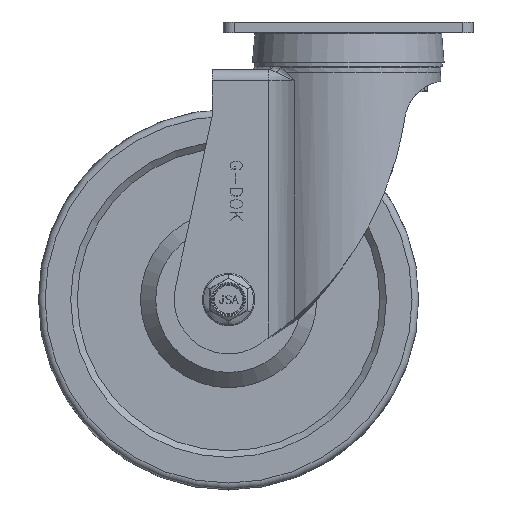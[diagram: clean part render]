
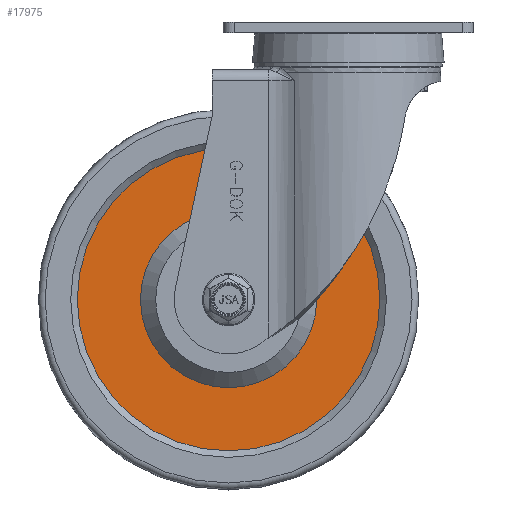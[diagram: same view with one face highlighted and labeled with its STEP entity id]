
A CAD part, front view. The second image highlights one B-rep face of the part: STEP entity #17975.
In plain terms, the highlighted planar face has unit normal (0, -1, 0).
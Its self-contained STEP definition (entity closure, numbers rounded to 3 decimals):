
#4718=FACE_BOUND('',#5812,.T.);
#4803=FACE_OUTER_BOUND('',#5811,.T.);
#5811=EDGE_LOOP('',(#11814,#11815));
#5812=EDGE_LOOP('',(#11816,#11817));
#6902=CIRCLE('',#19020,69.5);
#6903=CIRCLE('',#19021,69.5);
#6904=CIRCLE('',#19023,40.5);
#6905=CIRCLE('',#19024,40.5);
#7197=VERTEX_POINT('',#24487);
#7198=VERTEX_POINT('',#24488);
#7199=VERTEX_POINT('',#24493);
#7200=VERTEX_POINT('',#24494);
#9026=EDGE_CURVE('',#7197,#7198,#6902,.T.);
#9028=EDGE_CURVE('',#7198,#7197,#6903,.T.);
#9029=EDGE_CURVE('',#7199,#7200,#6904,.T.);
#9030=EDGE_CURVE('',#7200,#7199,#6905,.T.);
#11814=ORIENTED_EDGE('',*,*,#9026,.F.);
#11815=ORIENTED_EDGE('',*,*,#9028,.F.);
#11816=ORIENTED_EDGE('',*,*,#9029,.T.);
#11817=ORIENTED_EDGE('',*,*,#9030,.T.);
#17289=PLANE('',#19022);
#17975=ADVANCED_FACE('',(#4803,#4718),#17289,.T.);
#19020=AXIS2_PLACEMENT_3D('',#24489,#20223,#20224);
#19021=AXIS2_PLACEMENT_3D('',#24491,#20226,#20227);
#19022=AXIS2_PLACEMENT_3D('',#24492,#20228,#20229);
#19023=AXIS2_PLACEMENT_3D('',#24495,#20230,#20231);
#19024=AXIS2_PLACEMENT_3D('',#24496,#20232,#20233);
#20223=DIRECTION('center_axis',(0.,1.,0.));
#20224=DIRECTION('ref_axis',(0.,0.,
1.));
#20226=DIRECTION('center_axis',(0.,1.,0.));
#20227=DIRECTION('ref_axis',(0.,0.,
1.));
#20228=DIRECTION('center_axis',(0.,-1.,0.));
#20229=DIRECTION('ref_axis',(0.,0.,
-1.));
#20230=DIRECTION('center_axis',(0.,1.,0.));
#20231=DIRECTION('ref_axis',(0.,0.,
1.));
#20232=DIRECTION('center_axis',(0.,1.,0.));
#20233=DIRECTION('ref_axis',(0.,0.,
1.));
#24487=CARTESIAN_POINT('',(-55.,-17.,-58.));
#24488=CARTESIAN_POINT('',(-55.,-17.,-197.));
#24489=CARTESIAN_POINT('Origin',(-55.,-17.,-127.5));
#24491=CARTESIAN_POINT('Origin',(-55.,-17.,-127.5));
#24492=CARTESIAN_POINT('Origin',(-55.,-17.,-58.));
#24493=CARTESIAN_POINT('',(-55.,-17.,-87.));
#24494=CARTESIAN_POINT('',(-55.,-17.,-168.));
#24495=CARTESIAN_POINT('Origin',(-55.,-17.,-127.5));
#24496=CARTESIAN_POINT('Origin',(-55.,-17.,-127.5));
